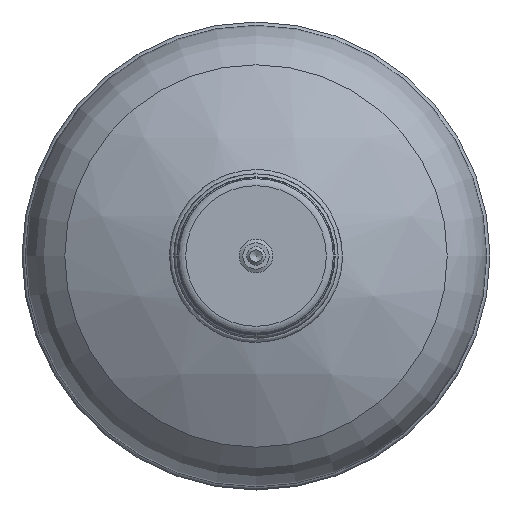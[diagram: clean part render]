
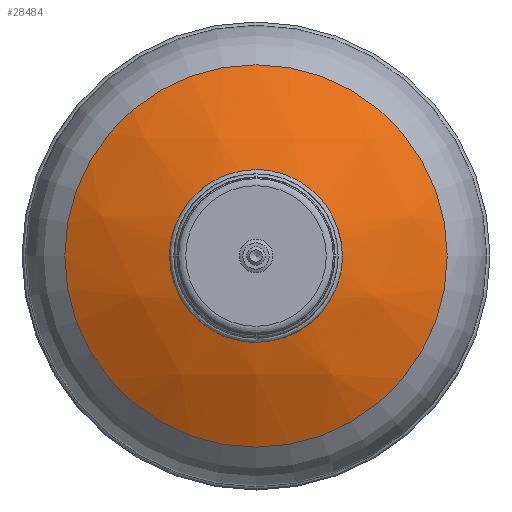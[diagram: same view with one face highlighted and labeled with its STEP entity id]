
A CAD part, front view. The second image highlights one B-rep face of the part: STEP entity #28484.
In plain terms, the highlighted spherical face has radius 244 mm.
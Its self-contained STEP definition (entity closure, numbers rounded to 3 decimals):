
#27=SPHERICAL_SURFACE('',#30343,244.);
#6424=FACE_BOUND('',#9805,.T.);
#8024=FACE_OUTER_BOUND('',#9804,.T.);
#9804=EDGE_LOOP('',(#25621));
#9805=EDGE_LOOP('',(#25622));
#10504=CIRCLE('',#30277,56.34);
#10531=CIRCLE('',#30344,125.194);
#13302=VERTEX_POINT('',#60898);
#13369=VERTEX_POINT('',#61817);
#17487=EDGE_CURVE('',#13302,#13302,#10504,.T.);
#17578=EDGE_CURVE('',#13369,#13369,#10531,.T.);
#25621=ORIENTED_EDGE('',*,*,#17578,.F.);
#25622=ORIENTED_EDGE('',*,*,#17487,.T.);
#28484=ADVANCED_FACE('',(#8024,#6424),#27,.T.);
#30277=AXIS2_PLACEMENT_3D('',#60899,#35738,#35739);
#30343=AXIS2_PLACEMENT_3D('',#61816,#35912,#35913);
#30344=AXIS2_PLACEMENT_3D('',#61818,#35914,#35915);
#35738=DIRECTION('center_axis',(0.,1.,0.));
#35739=DIRECTION('ref_axis',(0.,0.,-1.));
#35912=DIRECTION('center_axis',(0.,0.,
1.));
#35913=DIRECTION('ref_axis',(-1.,0.,0.));
#35914=DIRECTION('center_axis',(0.,1.,0.));
#35915=DIRECTION('ref_axis',(1.,0.,0.));
#60898=CARTESIAN_POINT('',(56.34,-153.606,0.));
#60899=CARTESIAN_POINT('Origin',(0.,-153.606,0.));
#61816=CARTESIAN_POINT('Origin',(0.,83.8,0.));
#61817=CARTESIAN_POINT('',(125.194,-125.634,0.));
#61818=CARTESIAN_POINT('Origin',(0.,-125.634,
0.));
